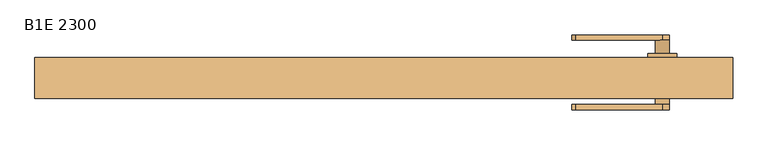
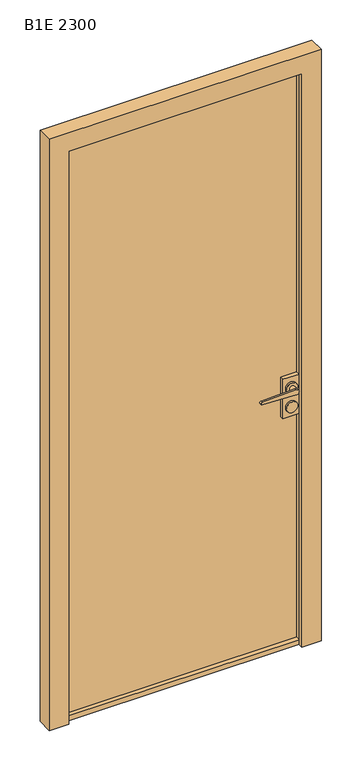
"""IFC4 building model written with IfcOpenShell, lengths in millimetres: door geometry, Mobiliário_Mobiliário de Escritório_Porta de Giro Emoldurada - BE_Marelli : B1E 2300."""

import ifcopenshell
import ifcopenshell.guid

model = None  # the IFC model being written
_history = None  # IfcOwnerHistory: only IFC2X3 demands one
_inside = {}  # id of a spatial element -> (the spatial element, [elements in it])
_under = {}  # id of a project, library or spatial element -> (it, [spatial elements below it])
_declared = {}  # id of a project -> (the project, [libraries it declares])
_typed = {}  # id of a type object -> (the type object, [elements of that type])
_made_of = {}  # id of a material, layer set ... -> (it, [elements and type objects made of it])


def new_model(schema):
    """Start an empty IFC model of exactly this schema.

    Asked for "IFC4X3", IfcOpenShell would pick the latest addendum, in which some entities
    have other attributes; the version numbers below select the first issue.
    IFC2X3 requires an IfcOwnerHistory on every rooted entity: one is made here for all.
    """
    global model, _history
    if schema == "IFC4X3":
        model = ifcopenshell.file(schema_version=(4, 3, 0, 0))
    else:
        model = ifcopenshell.file(schema=schema)
    _inside.clear()
    _under.clear()
    _declared.clear()
    _typed.clear()
    _made_of.clear()
    _history = None
    if model.schema == "IFC2X3":
        org = make("IfcOrganization", Name="unknown")
        user = make(
            "IfcPersonAndOrganization",
            ThePerson=make("IfcPerson", FamilyName="unknown"),
            TheOrganization=org,
        )
        app = make(
            "IfcApplication",
            ApplicationDeveloper=org,
            Version="unknown",
            ApplicationFullName="unknown",
            ApplicationIdentifier="unknown",
        )
        _history = make(
            "IfcOwnerHistory",
            OwningUser=user,
            OwningApplication=app,
            ChangeAction="ADDED",
            CreationDate=0,
        )
    return model


def make(cls, **values):
    """One entity of the class cls with the attributes given. An attribute that is None is left unset."""
    return model.create_entity(
        cls, **{name: value for name, value in values.items() if value is not None}
    )


def rooted(cls, **values):
    """An entity with a GlobalId (a new one), such as an element, a storey or a relation."""
    return make(cls, GlobalId=ifcopenshell.guid.new(), OwnerHistory=_history, **values)


def si_unit(unit_type, name, prefix=None):
    """IfcSIUnit, for example si_unit("LENGTHUNIT", "METRE", prefix="MILLI")."""
    return make("IfcSIUnit", UnitType=unit_type, Prefix=prefix, Name=name)


def assignment(units):
    """IfcUnitAssignment: the units of a project."""
    return None if units is None else make("IfcUnitAssignment", Units=units)


def point(xyz):
    """IfcCartesianPoint."""
    return None if xyz is None else make("IfcCartesianPoint", Coordinates=xyz)


def direction(xyz):
    """IfcDirection."""
    return None if xyz is None else make("IfcDirection", DirectionRatios=xyz)


def frame(location, z_axis=None, x_axis=None):
    """IfcAxis2Placement3D, a coordinate frame: its origin and axes. An axis left out is left unset."""
    return make(
        "IfcAxis2Placement3D",
        Location=point(location),
        Axis=direction(z_axis),
        RefDirection=direction(x_axis),
    )


def frame_2d(location, x_axis=None):
    """IfcAxis2Placement2D, a coordinate frame in the plane: its origin and x axis."""
    return make(
        "IfcAxis2Placement2D", Location=point(location), RefDirection=direction(x_axis)
    )


def origin():
    """The frame at (0, 0, 0) with its axes left unset."""
    return frame((0.0, 0.0, 0.0))


def place(relative_to, where):
    """IfcLocalPlacement: puts the frame where relative to a parent placement (None: the world)."""
    return make(
        "IfcLocalPlacement", PlacementRelTo=relative_to, RelativePlacement=where
    )


def context(
    kind, dimensions, precision=None, world=None, true_north=None, identifier=None
):
    """IfcGeometricRepresentationContext, for example the 3D "Model" context."""
    return make(
        "IfcGeometricRepresentationContext",
        ContextIdentifier=identifier,
        ContextType=kind,
        CoordinateSpaceDimension=dimensions,
        Precision=precision,
        WorldCoordinateSystem=world,
        TrueNorth=true_north,
    )


def project(units=None, contexts=None):
    """IfcProject with its units and contexts."""
    return rooted(
        "IfcProject",
        Name="project",
        RepresentationContexts=contexts,
        UnitsInContext=assignment(units),
    )


def spatial(cls, under=None, at=None, **own):
    """A site, building, storey or space (cls), placed at a placement, below another one or the project."""
    s = rooted(cls, ObjectPlacement=at, **own)
    if under is not None:
        _under.setdefault(under.id(), (under, []))[1].append(s)
    return s


def polyline(points):
    """IfcPolyline through the points."""
    return make("IfcPolyline", Points=[point(p) for p in points])


def circle_curve(where, radius):
    """IfcCircle in the frame where."""
    return make("IfcCircle", Position=where, Radius=radius)


def trimmed(basis, trim1, trim2, sense, master):
    """IfcTrimmedCurve: the piece of a basis curve between two trims."""
    return make(
        "IfcTrimmedCurve",
        BasisCurve=basis,
        Trim1=trim1,
        Trim2=trim2,
        SenseAgreement=sense,
        MasterRepresentation=master,
    )


def segment(curve, same_sense, transition):
    """IfcCompositeCurveSegment."""
    return make(
        "IfcCompositeCurveSegment",
        Transition=transition,
        SameSense=same_sense,
        ParentCurve=curve,
    )


def composite_curve(segments, self_intersect=None):
    """IfcCompositeCurve: segments joined end to end."""
    return make("IfcCompositeCurve", Segments=segments, SelfIntersect=self_intersect)


def outline(outer, holes=None, kind="AREA"):
    """IfcArbitraryClosedProfileDef: a profile drawn as a closed curve; with holes, ...WithVoids."""
    if holes is None:
        return make("IfcArbitraryClosedProfileDef", ProfileType=kind, OuterCurve=outer)
    return make(
        "IfcArbitraryProfileDefWithVoids",
        ProfileType=kind,
        OuterCurve=outer,
        InnerCurves=holes,
    )


def extrude(swept, where, along, depth):
    """IfcExtrudedAreaSolid: the profile swept, set in the frame where, extruded along a direction by depth."""
    return make(
        "IfcExtrudedAreaSolid",
        SweptArea=swept,
        Position=where,
        ExtrudedDirection=direction(along),
        Depth=depth,
    )


def faces_of(points, faces, orient=None, outer=None):
    """IfcFace entities. A face is a list of loops; a loop is a list of indices into points, from 0.

    orient and outer hold one flag for each loop. By default every Orientation is true, the
    first loop of a face is its IfcFaceOuterBound and the others are IfcFaceBound.
    """
    made = []
    for i, loops in enumerate(faces):
        bounds = []
        for j, loop in enumerate(loops):
            is_outer = j == 0 if outer is None else outer[i][j]
            bounds.append(
                make(
                    "IfcFaceOuterBound" if is_outer else "IfcFaceBound",
                    Bound=make("IfcPolyLoop", Polygon=[points[k] for k in loop]),
                    Orientation=True if orient is None else orient[i][j],
                )
            )
        made.append(make("IfcFace", Bounds=bounds))
    return made


def faceted_brep(points, faces, orient=None, outer=None, voids=None):
    """IfcFacetedBrep: a solid bounded by flat faces; with voids (closed shells), ...WithVoids."""
    shared = [point(p) for p in points]
    hull = make("IfcClosedShell", CfsFaces=faces_of(shared, faces, orient, outer))
    if voids is None:
        return make("IfcFacetedBrep", Outer=hull)
    return make(
        "IfcFacetedBrepWithVoids",
        Outer=hull,
        Voids=[
            make(cls, CfsFaces=faces_of(shared, fs, o, b)) for cls, fs, o, b in voids
        ],
    )


def shape(context_of_items, identifier, shape_type, items):
    """IfcShapeRepresentation: the items that make up one representation, for example the "Body"."""
    return make(
        "IfcShapeRepresentation",
        ContextOfItems=context_of_items,
        RepresentationIdentifier=identifier,
        RepresentationType=shape_type,
        Items=items,
    )


def source(mapping_origin, context_of_items, identifier, shape_type, items):
    """IfcRepresentationMap: a shape defined once, which mapped items show again and again."""
    return make(
        "IfcRepresentationMap",
        MappingOrigin=mapping_origin,
        MappedRepresentation=shape(context_of_items, identifier, shape_type, items),
    )


def transform(
    local_origin,
    x_axis=None,
    y_axis=None,
    z_axis=None,
    scale=None,
    scale2=None,
    scale3=None,
    uniform=True,
):
    """IfcCartesianTransformationOperator3D, or its non-uniform kind. x_axis, y_axis, z_axis: its Axis1, 2, 3."""
    if uniform:
        return make(
            "IfcCartesianTransformationOperator3D",
            Axis1=direction(x_axis),
            Axis2=direction(y_axis),
            LocalOrigin=point(local_origin),
            Scale=scale,
            Axis3=direction(z_axis),
        )
    return make(
        "IfcCartesianTransformationOperator3DnonUniform",
        Axis1=direction(x_axis),
        Axis2=direction(y_axis),
        LocalOrigin=point(local_origin),
        Scale=scale,
        Axis3=direction(z_axis),
        Scale2=scale2,
        Scale3=scale3,
    )


def mapped(mapping_source, mapping_target):
    """IfcMappedItem: shows the shape of a source again, moved by a transform."""
    return make(
        "IfcMappedItem", MappingSource=mapping_source, MappingTarget=mapping_target
    )


def made_of(thing, what):
    """Note that an element or type object is made of a material, layer set ...; save() writes the relation."""
    if what is not None:
        _made_of.setdefault(what.id(), (what, []))[1].append(thing)
    return thing


def element(
    cls,
    number,
    at=None,
    inside=None,
    cuts=None,
    type_object=None,
    material=None,
    context=None,
    identifier="Body",
    shape_type=None,
    held_by="IfcProductDefinitionShape",
    body=None,
    shapes=None,
    **own,
):
    """One element of the class cls, such as IfcWall. Its Tag is "e" and its number.

    at: its placement. inside: the storey or other place that contains it. cuts: it is an
    opening in that element (IfcRelVoidsElement). A single representation is given by context,
    identifier, shape_type and body (its items); several are given by shapes. held_by: the class
    of the entity that holds the representations. save() writes the other relations.
    """
    e = rooted(cls, Tag="e%d" % number, ObjectPlacement=at, **own)
    if body is not None:
        shapes = [shape(context, identifier, shape_type, body)]
    if shapes is not None:
        e.Representation = make(held_by, Representations=shapes)
    if inside is not None:
        _inside.setdefault(inside.id(), (inside, []))[1].append(e)
    if cuts is not None:
        rooted(
            "IfcRelVoidsElement", RelatingBuildingElement=cuts, RelatedOpeningElement=e
        )
    if type_object is not None:
        _typed.setdefault(type_object.id(), (type_object, []))[1].append(e)
    return made_of(e, material)


def aggregate(whole, parts):
    """IfcRelAggregates: a whole, such as a stair, and the parts it consists of."""
    return rooted("IfcRelAggregates", RelatingObject=whole, RelatedObjects=parts)


def save(model, path):
    """Write the relations noted so far, then the file.

    IfcRelAggregates (storeys below a building ...), IfcRelContainedInSpatialStructure (elements
    in a storey), IfcRelDefinesByType, IfcRelAssociatesMaterial and IfcRelDeclares: one each for
    every whole, place, type object, material and project.
    """
    for whole, parts in _under.values():
        aggregate(whole, parts)
    for where, things in _inside.values():
        rooted(
            "IfcRelContainedInSpatialStructure",
            RelatedElements=things,
            RelatingStructure=where,
        )
    for kind, things in _typed.values():
        rooted("IfcRelDefinesByType", RelatedObjects=things, RelatingType=kind)
    for what, things in _made_of.values():
        rooted("IfcRelAssociatesMaterial", RelatedObjects=things, RelatingMaterial=what)
    for by, libraries in _declared.values():
        rooted("IfcRelDeclares", RelatingContext=by, RelatedDefinitions=libraries)
    model.write(path)


def plane_surface(at):
    """IfcPlane: the flat surface through the origin of the frame at, square to its z axis."""
    return make("IfcPlane", Position=at)


def cylinder_surface(at, radius):
    """IfcCylindricalSurface: all points at the distance radius from the z axis of the frame at."""
    return make("IfcCylindricalSurface", Position=at, Radius=radius)


def advanced_brep(points, edges, surfaces, faces):
    """IfcAdvancedBrep: a solid bounded by faces that lie on surfaces and meet in shared edges.

    An edge is (start, end): straight between two places in points (the first is 0);
    or (start, end, curve); or (start, end, curve, False) where it runs against its curve.
    A face is (place in surfaces, loops), or (place, loops, False) where it looks against
    its surface's normal. A loop lists edges by number (the first is 1), with a minus sign
    where the edge is run from its end to its start. The first loop is the outer one.
    """
    corners = [point(p) for p in points]
    vertices = [make("IfcVertexPoint", VertexGeometry=c) for c in corners]
    made = []
    for start, end, *more in edges:
        made.append(
            make(
                "IfcEdgeCurve",
                EdgeStart=vertices[start],
                EdgeEnd=vertices[end],
                EdgeGeometry=more[0] if more else make("IfcPolyline", Points=[corners[start], corners[end]]),
                SameSense=more[1] if len(more) > 1 else True,
            )
        )
    hull = []
    for where, loops, *sense in faces:
        bounds = []
        for j, loop in enumerate(loops):
            ring = [make("IfcOrientedEdge", EdgeElement=made[abs(k) - 1], Orientation=k > 0) for k in loop]
            bounds.append(
                make(
                    "IfcFaceOuterBound" if j == 0 else "IfcFaceBound",
                    Bound=make("IfcEdgeLoop", EdgeList=ring),
                    Orientation=True,
                )
            )
        hull.append(make("IfcAdvancedFace", Bounds=bounds, FaceSurface=surfaces[where], SameSense=sense[0] if sense else True))
    return make("IfcAdvancedBrep", Outer=make("IfcClosedShell", CfsFaces=hull))


def b1e_2300_1c88b490(model_context):
    return source(origin(), model_context, "Body", "SolidModel", [
        extrude(outline(polyline([(-447.5, 16.5), (-429.5, 16.5), (-429.5, -25.5), (-447.5, -25.5), (-447.5, 16.5)])), frame((0.0, 0.0, 0.2), z_axis=(0.0, 0.0, 1.0), x_axis=(1.0, 0.0, 0.0)), (0.0, 0.0, 1.0), 2248.3),
        extrude(outline(polyline([(447.5, 16.5), (447.5, -25.5), (429.5, -25.5), (429.5, 16.5), (447.5, 16.5)])), frame((0.0, 0.0, 0.2), z_axis=(0.0, 0.0, 1.0), x_axis=(1.0, 0.0, 0.0)), (0.0, 0.0, 1.0), 2248.3),
        extrude(outline(polyline([(2230.5, 429.5), (2230.5, -429.5), (18.2, -429.5), (18.2, 429.5), (896.8, 429.5), (896.8, 369.5), (1050.0, 369.5), (1050.0, 429.5), (2230.5, 429.5)])), frame((0.0, -8.5, 0.0), z_axis=(0.0, 1.0, 0.0), x_axis=(0.0, 0.0, 1.0)), (0.0, 0.0, 1.0), 8.0),
        faceted_brep([(-500.0, -42.5, 0.0), (-500.0, 16.5, 0.0), (-450.0, 16.5, 0.0), (-450.0, -27.0, 0.0), (-429.0, -27.0, 0.0), (-429.0, -42.5, 0.0), (500.0, -42.5, 0.0), (429.0, -42.5, 0.0), (429.0, -27.0, 0.0), (450.0, -27.0, 0.0), (450.0, 16.5, 0.0), (500.0, 16.5, 0.0), (-500.0, -42.5, 2300.0), (-500.0, 16.5, 2300.0), (500.0, 16.5, 2300.0), (450.0, 16.5, 2250.0), (-450.0, 16.5, 2250.0), (-450.0, -27.0, 2250.0), (450.0, -27.0, 2250.0), (429.0, -27.0, 2229.0), (-429.0, -27.0, 2229.0), (-429.0, -42.5, 2229.0), (500.0, -42.5, 2300.0), (429.0, -42.5, 2229.0)], [[[0, 1, 2, 3, 4, 5]], [[6, 7, 8, 9, 10, 11]], [[0, 12, 13, 1]], [[13, 14, 11, 10, 15, 16, 2, 1]], [[17, 3, 2, 16]], [[4, 3, 17, 18, 9, 8, 19, 20]], [[5, 4, 20, 21]], [[22, 12, 0, 5, 21, 23, 7, 6]], [[8, 7, 23, 19]], [[10, 9, 18, 15]], [[14, 22, 6, 11]], [[22, 14, 13, 12]], [[20, 19, 23, 21]], [[16, 15, 18, 17]]]),
        extrude(outline(polyline([(429.5, 16.5), (429.5, -25.5), (-429.5, -25.5), (-429.5, 16.5), (429.5, 16.5)])), frame((0.0, 0.0, 2230.5), z_axis=(0.0, 0.0, 1.0), x_axis=(1.0, 0.0, 0.0)), (0.0, 0.0, 1.0), 18.0),
        extrude(outline(polyline([(369.5, -23.55), (369.5, 14.55), (429.5, 14.55), (429.5, -23.55), (369.5, -23.55)])), frame((0.0, 0.0, 896.8), z_axis=(0.0, 0.0, 1.0), x_axis=(1.0, 0.0, 0.0)), (0.0, 0.0, 1.0), 153.2),
        extrude(outline(polyline([(429.5, 16.5), (429.5, -25.5), (-429.5, -25.5), (-429.5, 16.5), (429.5, 16.5)])), frame((0.0, 0.0, 0.2), z_axis=(0.0, 0.0, 1.0), x_axis=(1.0, 0.0, 0.0)), (0.0, 0.0, 1.0), 18.0),
        extrude(outline(composite_curve([segment(trimmed(circle_curve(frame_2d((936.55, 399.5)), 20.75), [point((936.55, 378.75))], [point((936.55, 420.25))], False, "CARTESIAN"), True, "CONTINUOUS"), segment(trimmed(circle_curve(frame_2d((936.55, 399.5)), 20.75), [point((936.55, 420.25))], [point((936.55, 378.75))], False, "CARTESIAN"), True, "CONTINUOUS")], self_intersect=False)), frame((0.0, 14.55, 0.0), z_axis=(0.0, 1.0, 0.0), x_axis=(0.0, 0.0, 1.0)), (0.0, 0.0, 1.0), 8.0),
        extrude(outline(composite_curve([segment(trimmed(circle_curve(frame_2d((936.55, 399.5)), 20.75), [point((936.55, 378.75))], [point((936.55, 420.25))], False, "CARTESIAN"), True, "CONTINUOUS"), segment(trimmed(circle_curve(frame_2d((936.55, 399.5)), 20.75), [point((936.55, 420.25))], [point((936.55, 378.75))], False, "CARTESIAN"), True, "CONTINUOUS")], self_intersect=False)), frame((0.0, -31.55, 0.0), z_axis=(0.0, 1.0, 0.0), x_axis=(0.0, 0.0, 1.0)), (0.0, 0.0, 1.0), 8.0),
        extrude(outline(composite_curve([segment(trimmed(circle_curve(frame_2d((1010.25, 399.5)), 20.75), [point((1010.25, 378.75))], [point((1010.25, 420.25))], False, "CARTESIAN"), True, "CONTINUOUS"), segment(trimmed(circle_curve(frame_2d((1010.25, 399.5)), 20.75), [point((1010.25, 420.25))], [point((1010.25, 378.75))], False, "CARTESIAN"), True, "CONTINUOUS")], self_intersect=False)), frame((0.0, -31.55, 0.0), z_axis=(0.0, 1.0, 0.0), x_axis=(0.0, 0.0, 1.0)), (0.0, 0.0, 1.0), 8.0),
        extrude(outline(composite_curve([segment(trimmed(circle_curve(frame_2d((1010.25, 399.5)), 20.75), [point((1010.25, 378.75))], [point((1010.25, 420.25))], False, "CARTESIAN"), True, "CONTINUOUS"), segment(trimmed(circle_curve(frame_2d((1010.25, 399.5)), 20.75), [point((1010.25, 420.25))], [point((1010.25, 378.75))], False, "CARTESIAN"), True, "CONTINUOUS")], self_intersect=False)), frame((0.0, 14.55, 0.0), z_axis=(0.0, 1.0, 0.0), x_axis=(0.0, 0.0, 1.0)), (0.0, 0.0, 1.0), 8.0),
        advanced_brep(
        [(389.5, 22.55, 1010.25), (409.5, 22.55, 1010.25), (409.5, 41.55, 1010.25), (399.0996794, 41.55, 1020.241984), (389.5, 41.55, 1010.25), (399.0996794, 41.55, 1000.258016), (274.5, 41.55, 1015.25), (274.5, 41.55, 1005.25), (399.0996794, 49.2, 1000.258016), (274.5, 49.2, 1005.25), (274.5, 49.2, 1015.25), (399.0996794, 49.2, 1020.241984)],
        [
            (0, 1, circle_curve(frame((399.5, 22.55, 1010.25), z_axis=(0.0, -1.0, 0.0), x_axis=(1.0, 0.0, 0.0)), 10.0)),
            (1, 0, circle_curve(frame((399.5, 22.55, 1010.25), z_axis=(0.0, -1.0, 0.0), x_axis=(1.0, 0.0, 0.0)), 10.0)),
            (1, 2),
            (2, 3, circle_curve(frame((399.5, 41.55, 1010.25), z_axis=(0.0, -1.0, 0.0), x_axis=(1.0, 0.0, 0.0)), 10.0)),
            (3, 4, circle_curve(frame((399.5, 41.55, 1010.25), z_axis=(0.0, -1.0, 0.0), x_axis=(1.0, 0.0, 0.0)), 10.0)),
            (4, 0),
            (4, 5, circle_curve(frame((399.5, 41.55, 1010.25), z_axis=(0.0, -1.0, 0.0), x_axis=(1.0, 0.0, 0.0)), 10.0)),
            (5, 2, circle_curve(frame((399.5, 41.55, 1010.25), z_axis=(0.0, -1.0, 0.0), x_axis=(1.0, 0.0, 0.0)), 10.0)),
            (3, 6),
            (6, 7, circle_curve(frame((274.5, 41.55, 1010.25), z_axis=(0.0, -1.0, 0.0), x_axis=(1.0, 0.0, 0.0)), 5.0)),
            (7, 5),
            (8, 9),
            (9, 10, circle_curve(frame((274.5, 49.2, 1010.25), z_axis=(0.0, 1.0, 0.0), x_axis=(1.0, 0.0, 0.0)), 5.0)),
            (10, 11),
            (11, 8, circle_curve(frame((399.5, 49.2, 1010.25), z_axis=(0.0, 1.0, 0.0), x_axis=(1.0, 0.0, 0.0)), 10.0)),
            (7, 9),
            (8, 5),
            (6, 10),
            (3, 11),
        ],
        [
            plane_surface(frame((409.5, 22.55, 1010.25), z_axis=(0.0, -1.0, 0.0), x_axis=(0.0, 0.0, 1.0))),
            cylinder_surface(frame((399.5, 22.55, 1010.25), z_axis=(0.0, 1.0, 0.0), x_axis=(1.0, 0.0, 0.0)), 10.0),
            plane_surface(frame((399.0996794, 41.55, 1000.258016), z_axis=(0.0, -1.0, 0.0), x_axis=(0.9991983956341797, 0.0, -0.0400320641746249))),
            plane_surface(frame((399.0996794, 49.2, 1000.258016), z_axis=(0.0, 1.0, 0.0), x_axis=(-0.9991983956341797, 0.0, 0.0400320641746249))),
            plane_surface(frame((399.0996794, 49.2, 1000.258016), z_axis=(-0.0400320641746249, 0.0, -0.9991983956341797), x_axis=(0.0, -1.0, 0.0))),
            cylinder_surface(frame((274.5, 41.55, 1010.25), z_axis=(0.0, 1.0, 0.0), x_axis=(1.0, 0.0, 0.0)), 5.0),
            plane_surface(frame((274.5, 49.2, 1015.25), z_axis=(-0.04003206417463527, 0.0, 0.9991983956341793), x_axis=(0.0, -1.0, 0.0))),
            cylinder_surface(frame((399.5, 41.55, 1010.25), z_axis=(0.0, 1.0, 0.0), x_axis=(1.0, 0.0, 0.0)), 10.0),
        ],
        [
            (0, [[1, 2]]),
            (1, [[-2, 3, 4, 5, 6]]),
            (1, [[-1, -6, 7, 8, -3]]),
            (2, [[9, 10, 11, -7, -5]]),
            (3, [[12, 13, 14, 15]]),
            (4, [[-11, 16, -12, 17]]),
            (5, [[-10, 18, -13, -16]]),
            (6, [[-9, 19, -14, -18]]),
            (7, [[-15, -19, -4, -8, -17]]),
        ],
    ),
        advanced_brep(
        [(399.0996794, -50.55, 1000.258016), (274.5, -50.55, 1005.25), (274.5, -50.55, 1015.25), (399.0996794, -50.55, 1020.241984), (389.5, -50.55, 1010.25), (399.0996794, -58.2, 1000.258016), (399.0996794, -58.2, 1020.241984), (274.5, -58.2, 1015.25), (274.5, -58.2, 1005.25), (409.5, -50.55, 1010.25), (389.5, -31.55, 1010.25), (409.5, -31.55, 1010.25)],
        [
            (0, 1),
            (1, 2, circle_curve(frame((274.5, -50.55, 1010.25), z_axis=(0.0, 1.0, 0.0), x_axis=(1.0, 0.0, 0.0)), 5.0)),
            (2, 3),
            (3, 4, circle_curve(frame((399.5, -50.55, 1010.25), z_axis=(0.0, -1.0, 0.0), x_axis=(1.0, 0.0, 0.0)), 10.0)),
            (4, 0, circle_curve(frame((399.5, -50.55, 1010.25), z_axis=(0.0, -1.0, 0.0), x_axis=(1.0, 0.0, 0.0)), 10.0)),
            (5, 6, circle_curve(frame((399.5, -58.2, 1010.25), z_axis=(0.0, -1.0, 0.0), x_axis=(1.0, 0.0, 0.0)), 10.0)),
            (6, 7),
            (7, 8, circle_curve(frame((274.5, -58.2, 1010.25), z_axis=(0.0, -1.0, 0.0), x_axis=(1.0, 0.0, 0.0)), 5.0)),
            (8, 5),
            (0, 5),
            (8, 1),
            (7, 2),
            (6, 3),
            (0, 9, circle_curve(frame((399.5, -50.55, 1010.25), z_axis=(0.0, -1.0, 0.0), x_axis=(1.0, 0.0, 0.0)), 10.0)),
            (9, 3, circle_curve(frame((399.5, -50.55, 1010.25), z_axis=(0.0, -1.0, 0.0), x_axis=(1.0, 0.0, 0.0)), 10.0)),
            (10, 11, circle_curve(frame((399.5, -31.55, 1010.25), z_axis=(0.0, 1.0, 0.0), x_axis=(1.0, 0.0, 0.0)), 10.0)),
            (11, 10, circle_curve(frame((399.5, -31.55, 1010.25), z_axis=(0.0, 1.0, 0.0), x_axis=(1.0, 0.0, 0.0)), 10.0)),
            (10, 4),
            (9, 11),
        ],
        [
            plane_surface(frame((409.5, -50.55, 1010.25), z_axis=(0.0, 1.0, 0.0), x_axis=(0.0, 0.0, -1.0))),
            plane_surface(frame((409.5, -58.2, 1010.25), z_axis=(0.0, -1.0, 0.0), x_axis=(0.0, 0.0, 1.0))),
            plane_surface(frame((274.5, -58.2, 1005.25), z_axis=(-0.04003206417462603, 0.0, -0.9991983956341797), x_axis=(0.0, 1.0, 0.0))),
            cylinder_surface(frame((274.5, -50.55, 1010.25), z_axis=(0.0, -1.0, 0.0), x_axis=(1.0, 0.0, 0.0)), 5.0),
            plane_surface(frame((399.0996794, -58.2, 1020.241984), z_axis=(-0.04003206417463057, 0.0, 0.9991983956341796), x_axis=(0.0, 1.0, 0.0))),
            cylinder_surface(frame((399.5, -50.55, 1010.25), z_axis=(0.0, -1.0, 0.0), x_axis=(1.0, 0.0, 0.0)), 10.0),
            plane_surface(frame((409.5, -31.55, 1010.25), z_axis=(0.0, 1.0, 0.0), x_axis=(0.0, 0.0, -1.0))),
            cylinder_surface(frame((399.5, -31.55, 1010.25), z_axis=(0.0, -1.0, 0.0), x_axis=(1.0, 0.0, 0.0)), 10.0),
        ],
        [
            (0, [[1, 2, 3, 4, 5]]),
            (1, [[6, 7, 8, 9]]),
            (2, [[-1, 10, -9, 11]]),
            (3, [[-2, -11, -8, 12]]),
            (4, [[-3, -12, -7, 13]]),
            (5, [[-6, -10, 14, 15, -13]]),
            (6, [[16, 17]]),
            (7, [[-16, 18, -4, -15, 19]]),
            (7, [[-17, -19, -14, -5, -18]]),
        ],
    ),
    ])


if __name__ == "__main__":
    model = new_model("IFC4")
    model_context = context("Model", 3, world=origin())
    ifc_project = project(units=[si_unit("LENGTHUNIT", "METRE", prefix="MILLI")], contexts=[model_context])
    site = spatial("IfcSite", under=ifc_project)
    building = spatial("IfcBuilding", under=site)
    placement = place(None, origin())
    b1e_2300_shape = b1e_2300_1c88b490(model_context)
    element("IfcDoor", 1, ObjectType="Mobiliário_Mobiliário de Escritório_Porta de Giro Emoldurada - BE_Marelli : B1E 2300", at=placement, inside=building, context=model_context, shape_type="MappedRepresentation", body=[
        mapped(b1e_2300_shape, transform((0.0, 0.0, 0.0), x_axis=(1.0, 0.0, 0.0), y_axis=(0.0, 1.0, 0.0), z_axis=(0.0, 0.0, 1.0))),
    ])
    save(model, "model.ifc")
